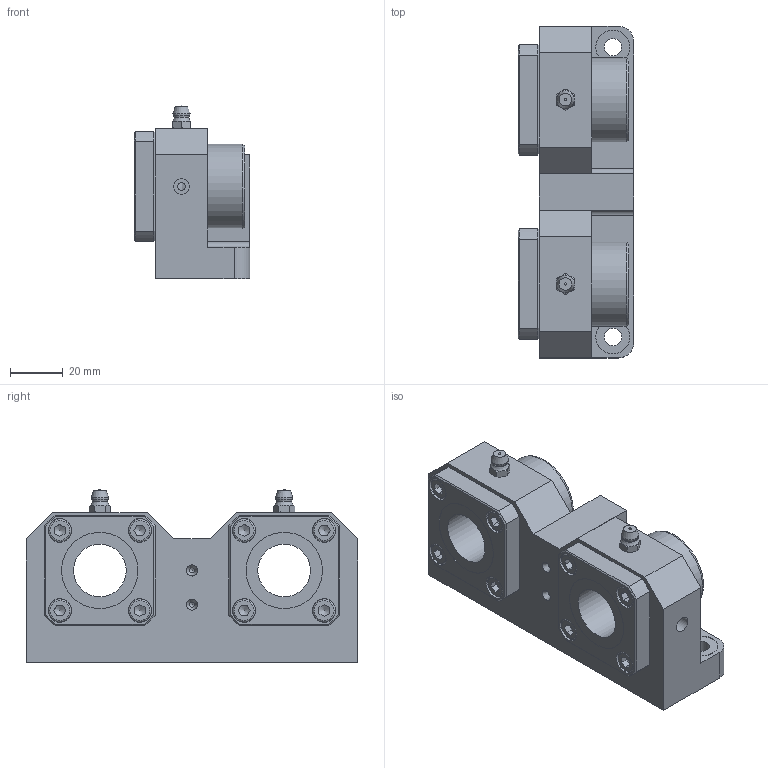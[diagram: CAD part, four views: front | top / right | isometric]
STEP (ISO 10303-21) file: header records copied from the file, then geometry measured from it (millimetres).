
FILE_DESCRIPTION((''),'2;1');
FILE_NAME('D:\製品 (図面)\カタログ用3D\リニアベアリング関連\STEP形式\LUF\LUF20.stp','2010-07-29T14:28:21',('Tsuchiya'),(''),'Autodesk Inventor 10','Autodesk Inventor 10','');
FILE_SCHEMA(('AUTOMOTIVE_DESIGN { 1 0 10303 214 1 1 1 1 }'));
Length unit declared in the file: millimetre
Products named in the file (4): LUF20; LUF201; LUF202; LUF203
Assembly tree (3 placements, depth 2):
  LUF20
    LUF201
    LUF202
    LUF203
Bounding box: 44 x 126 x 65.8 mm (x, y, z)
Volume: 189552.6 mm3; surface area: 57148.2 mm2
Topology: 13 solids, 13 shells, 346 faces, 758 edges, 476 vertices
Faces by surface type: plane 156, cylinder 80, cone 64, bspline 32, torus 10, sphere 4
Full cylindrical faces by diameter (mm): 2 x2, 3 x3, 5 x12, 5.5 x8, 6 x4, 6.6 x1, 8.5 x8, 9 x8, 13 x1, 20 x2, 29 x4, 32 x5
Entity records: 10355 total; most frequent: CARTESIAN_POINT 3619, DIRECTION 1324, ORIENTED_EDGE 1192, EDGE_CURVE 596, EDGE_LOOP 566, AXIS2_PLACEMENT_3D 559, VERTEX_POINT 444, FACE_OUTER_BOUND 346
